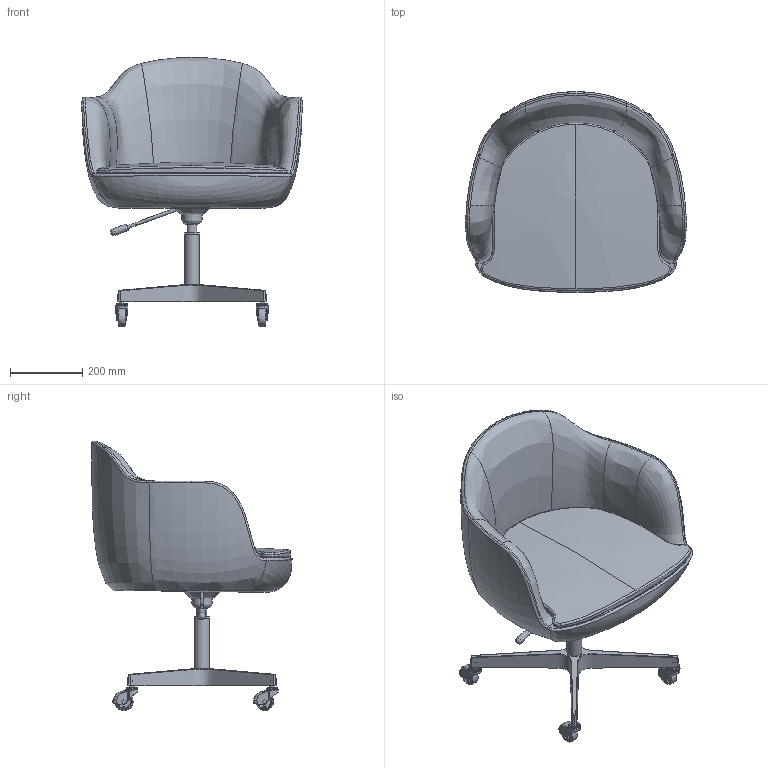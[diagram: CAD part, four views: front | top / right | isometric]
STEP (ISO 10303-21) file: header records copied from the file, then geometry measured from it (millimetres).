
FILE_DESCRIPTION(/* description */ (''),/* implementation_level */ '2;1');
FILE_NAME(/* name */ 'KINOSH~2',/* time_stamp */ '2021-07-07T08:53:15+09:00',/* author */ (''),/* organization */ (''),/* preprocessor_version */ 'ST-DEVELOPER v16.5',/* originating_system */ '',/* authorisation */ '');
FILE_SCHEMA (('AUTOMOTIVE_DESIGN'));
Length unit declared in the file: millimetre
Products named in the file (1): Document
Bounding box: 609.85 x 554.81 x 745 mm (x, y, z)
Volume: 6356000.4 mm3; surface area: 1906954.4 mm2
Topology: 22 solids, 26 shells, 867 faces, 2131 edges, 1274 vertices
Faces by surface type: bspline 676, plane 191
Entity records: 86601 total; most frequent: CARTESIAN_POINT 74453, ORIENTED_EDGE 4155, EDGE_CURVE 2099, VERTEX_POINT 1274, B_SPLINE_CURVE_WITH_KNOTS 964, EDGE_LOOP 891, ADVANCED_FACE 867, FACE_OUTER_BOUND 867
